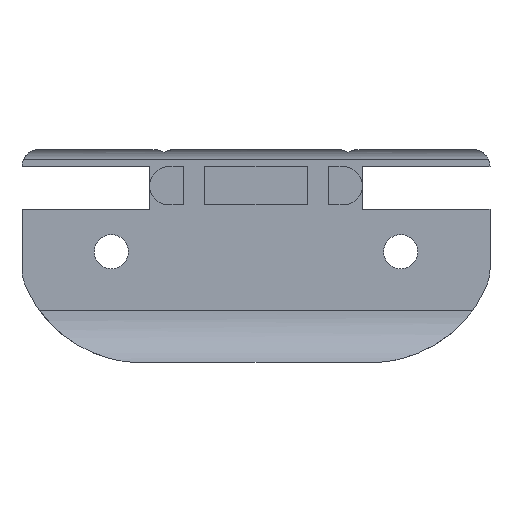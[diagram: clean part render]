
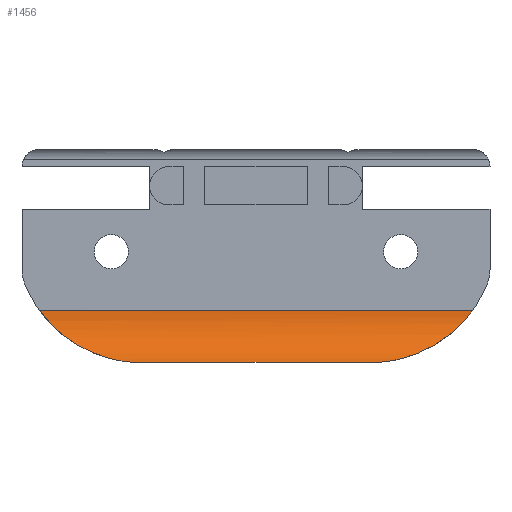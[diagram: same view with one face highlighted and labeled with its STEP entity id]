
A CAD part, front view. The second image highlights one B-rep face of the part: STEP entity #1456.
In plain terms, the highlighted cylindrical face has radius 7 mm (diameter 14 mm), a partial arc.
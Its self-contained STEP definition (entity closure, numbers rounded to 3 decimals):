
#37 = CARTESIAN_POINT ( 'NONE',  ( -15.06, -12.457, -6.925 ) ) ;
#58 = CARTESIAN_POINT ( 'NONE',  ( 27.5, -6.438, -10.5 ) ) ;
#77 = ORIENTED_EDGE ( 'NONE', *, *, #2004, .F. ) ;
#112 = CARTESIAN_POINT ( 'NONE',  ( 23.587, -8.515, -3.804 ) ) ;
#139 = CARTESIAN_POINT ( 'NONE',  ( 27.5, -6.438, -3.5 ) ) ;
#160 = LINE ( 'NONE', #139, #472 ) ;
#163 = CARTESIAN_POINT ( 'NONE',  ( -22.768, -9.226, -4.068 ) ) ;
#205 = CARTESIAN_POINT ( 'NONE',  ( -19.635, -11.171, -5.335 ) ) ;
#244 = CARTESIAN_POINT ( 'NONE',  ( -24.729, -7.324, -3.544 ) ) ;
#259 = EDGE_LOOP ( 'NONE', ( #1103, #804, #77, #1570 ) ) ;
#290 = CARTESIAN_POINT ( 'NONE',  ( 14.5, -12.5, -7. ) ) ;
#318 = DIRECTION ( 'NONE',  ( -1., 0., 0. ) ) ;
#403 = CARTESIAN_POINT ( 'NONE',  ( 21.461, -10.169, -4.567 ) ) ;
#440 = EDGE_CURVE ( 'NONE', #1839, #1969, #1480, .T. ) ;
#443 = CARTESIAN_POINT ( 'NONE',  ( 18.661, -11.58, -5.742 ) ) ;
#472 = VECTOR ( 'NONE', #789, 1000. ) ;
#494 = CARTESIAN_POINT ( 'NONE',  ( -23.589, -8.513, -3.804 ) ) ;
#517 = CARTESIAN_POINT ( 'NONE',  ( -23.981, -8.133, -3.696 ) ) ;
#604 = LINE ( 'NONE', #1392, #1234 ) ;
#615 = B_SPLINE_CURVE_WITH_KNOTS ( 'NONE', 3,
 ( #966, #37, #1600, #1925, #1762, #1751, #792, #205, #979, #1425, #1436, #987, #163, #494, #517, #244, #682, #1589 ),
 .UNSPECIFIED., .F., .F.,
 ( 4, 2, 2, 2, 2, 2, 2, 2, 4 ),
 ( 0., 0.002, 0.003, 0.005, 0.007, 0.008, 0.01, 0.012, 0.013 ),
 .UNSPECIFIED. ) ;
#656 = DIRECTION ( 'NONE',  ( -1., 0., 0. ) ) ;
#682 = CARTESIAN_POINT ( 'NONE',  ( -25.085, -6.895, -3.5 ) ) ;
#789 = DIRECTION ( 'NONE',  ( -1., 0., 0. ) ) ;
#792 = CARTESIAN_POINT ( 'NONE',  ( -18.676, -11.574, -5.735 ) ) ;
#804 = ORIENTED_EDGE ( 'NONE', *, *, #1041, .T. ) ;
#818 = CYLINDRICAL_SURFACE ( 'NONE', #1192, 7. ) ;
#858 = CARTESIAN_POINT ( 'NONE',  ( 25.422, -6.438, -3.5 ) ) ;
#864 = CARTESIAN_POINT ( 'NONE',  ( 23.981, -8.134, -3.696 ) ) ;
#876 = CARTESIAN_POINT ( 'NONE',  ( 24.73, -7.323, -3.544 ) ) ;
#917 = CARTESIAN_POINT ( 'NONE',  ( 15.603, -12.383, -6.8 ) ) ;
#966 = CARTESIAN_POINT ( 'NONE',  ( -14.5, -12.5, -7. ) ) ;
#979 = CARTESIAN_POINT ( 'NONE',  ( -20.102, -10.945, -5.135 ) ) ;
#987 = CARTESIAN_POINT ( 'NONE',  ( -22.337, -9.56, -4.225 ) ) ;
#1032 = CARTESIAN_POINT ( 'NONE',  ( 25.422, -6.438, -3.5 ) ) ;
#1041 = EDGE_CURVE ( 'NONE', #1416, #1043, #615, .T. ) ;
#1043 = VERTEX_POINT ( 'NONE', #1622 ) ;
#1072 = CARTESIAN_POINT ( 'NONE',  ( 18.168, -11.757, -5.943 ) ) ;
#1103 = ORIENTED_EDGE ( 'NONE', *, *, #1961, .T. ) ;
#1143 = FACE_OUTER_BOUND ( 'NONE', #259, .T. ) ;
#1186 = CARTESIAN_POINT ( 'NONE',  ( 25.086, -6.894, -3.5 ) ) ;
#1192 = AXIS2_PLACEMENT_3D ( 'NONE', #58, #656, #1324 ) ;
#1228 = CARTESIAN_POINT ( 'NONE',  ( 17.165, -12.059, -6.321 ) ) ;
#1234 = VECTOR ( 'NONE', #318, 1000. ) ;
#1324 = DIRECTION ( 'NONE',  ( 0., 0., 1. ) ) ;
#1356 = CARTESIAN_POINT ( 'NONE',  ( 19.628, -11.174, -5.338 ) ) ;
#1392 = CARTESIAN_POINT ( 'NONE',  ( 27.5, -12.5, -7. ) ) ;
#1412 = CARTESIAN_POINT ( 'NONE',  ( 14.5, -12.5, -7. ) ) ;
#1416 = VERTEX_POINT ( 'NONE', #1483 ) ;
#1425 = CARTESIAN_POINT ( 'NONE',  ( -21.016, -10.444, -4.751 ) ) ;
#1436 = CARTESIAN_POINT ( 'NONE',  ( -21.462, -10.168, -4.567 ) ) ;
#1456 = ADVANCED_FACE ( 'NONE', ( #1143 ), #818, .F. ) ;
#1480 = B_SPLINE_CURVE_WITH_KNOTS ( 'NONE', 3,
 ( #1032, #1186, #876, #864, #112, #1498, #1807, #403, #1663, #1509, #1356, #443, #1072, #1228, #1848, #917, #1702, #290 ),
 .UNSPECIFIED., .F., .F.,
 ( 4, 2, 2, 2, 2, 2, 2, 2, 4 ),
 ( 0., 0.002, 0.003, 0.005, 0.007, 0.008, 0.01, 0.012, 0.013 ),
 .UNSPECIFIED. ) ;
#1483 = CARTESIAN_POINT ( 'NONE',  ( -14.5, -12.5, -7. ) ) ;
#1498 = CARTESIAN_POINT ( 'NONE',  ( 22.76, -9.232, -4.071 ) ) ;
#1509 = CARTESIAN_POINT ( 'NONE',  ( 20.098, -10.947, -5.137 ) ) ;
#1570 = ORIENTED_EDGE ( 'NONE', *, *, #440, .T. ) ;
#1589 = CARTESIAN_POINT ( 'NONE',  ( -25.422, -6.438, -3.5 ) ) ;
#1600 = CARTESIAN_POINT ( 'NONE',  ( -15.601, -12.383, -6.801 ) ) ;
#1622 = CARTESIAN_POINT ( 'NONE',  ( -25.422, -6.438, -3.5 ) ) ;
#1663 = CARTESIAN_POINT ( 'NONE',  ( 21.014, -10.445, -4.752 ) ) ;
#1702 = CARTESIAN_POINT ( 'NONE',  ( 15.062, -12.456, -6.925 ) ) ;
#1751 = CARTESIAN_POINT ( 'NONE',  ( -18.183, -11.752, -5.937 ) ) ;
#1762 = CARTESIAN_POINT ( 'NONE',  ( -17.171, -12.058, -6.319 ) ) ;
#1807 = CARTESIAN_POINT ( 'NONE',  ( 22.333, -9.563, -4.227 ) ) ;
#1839 = VERTEX_POINT ( 'NONE', #858 ) ;
#1848 = CARTESIAN_POINT ( 'NONE',  ( 16.654, -12.184, -6.499 ) ) ;
#1925 = CARTESIAN_POINT ( 'NONE',  ( -16.656, -12.184, -6.498 ) ) ;
#1961 = EDGE_CURVE ( 'NONE', #1969, #1416, #604, .T. ) ;
#1969 = VERTEX_POINT ( 'NONE', #1412 ) ;
#2004 = EDGE_CURVE ( 'NONE', #1839, #1043, #160, .T. ) ;
